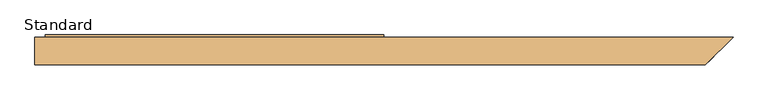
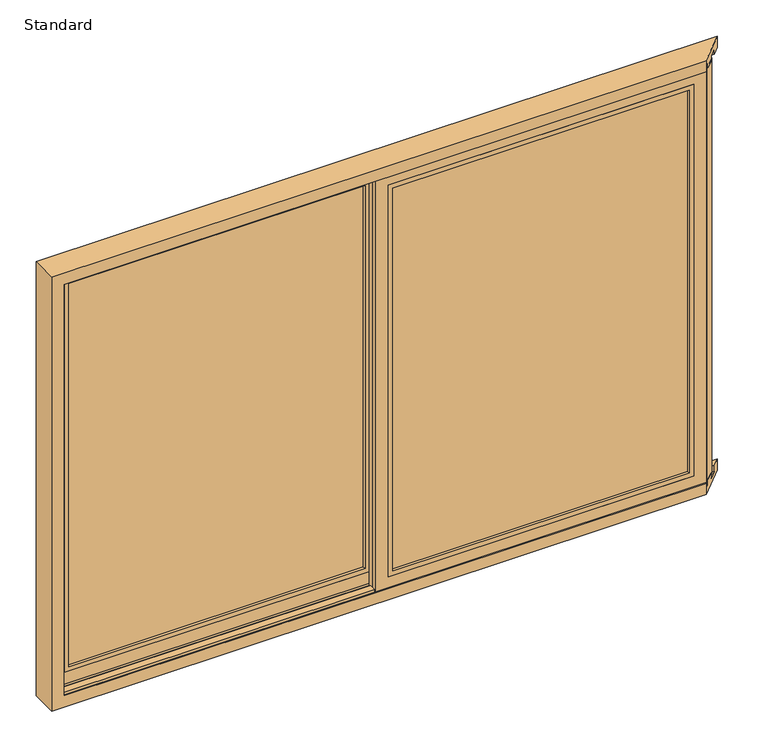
"""IFC4 building model written with IfcOpenShell, lengths in millimetres: door geometry, SMARTS_Visoglide Plus Corner Opening : Standard."""

from ifc_helpers import new_model, si_unit, frame, origin, place, context, project, spatial, polyline, outline, extrude, faceted_brep, source, transform, mapped, element, save


def standard_b7fdf201(model_context):
    return source(origin(), model_context, "Body", "SolidModel", [
        extrude(outline(polyline([(1347.5, -67.0), (26.5, -67.0), (26.5, -63.0), (1347.5, -63.0), (1347.5, -67.0)])), frame((0.0, 0.0, 952.5), z_axis=(0.0, 0.0, 1.0), x_axis=(1.0, 0.0, 0.0)), (0.0, 0.0, 1.0), 1795.0),
        extrude(outline(polyline([(1347.5, -47.0), (26.5, -47.0), (26.5, -43.0), (1347.5, -43.0), (1347.5, -47.0)])), frame((0.0, 0.0, 952.5), z_axis=(0.0, 0.0, 1.0), x_axis=(1.0, 0.0, 0.0)), (0.0, 0.0, 1.0), 1795.0),
        extrude(outline(polyline([(2747.5, 26.5), (952.5, 26.5), (952.5, 1347.5), (2747.5, 1347.5), (2747.5, 26.5)]), holes=[polyline([(2737.5, 1337.5), (962.5, 1337.5), (962.5, 36.5), (2737.5, 36.5), (2737.5, 1337.5)])]), frame((0.0, -63.0, 0.0), z_axis=(0.0, 1.0, 0.0), x_axis=(0.0, 0.0, 1.0)), (0.0, 0.0, 1.0), 16.0),
        extrude(outline(polyline([(2752.5, 1352.5), (2752.5, 21.5), (947.5, 21.5), (947.5, 1352.5), (2752.5, 1352.5)]), holes=[polyline([(967.5, 1332.5), (967.5, 41.5), (2732.5, 41.5), (2732.5, 1332.5), (967.5, 1332.5)])]), frame((0.0, -86.0, 0.0), z_axis=(0.0, 1.0, 0.0), x_axis=(0.0, 0.0, 1.0)), (0.0, 0.0, 1.0), 11.9897777),
        extrude(outline(polyline([(2806.5, 1406.5), (2806.5, -32.5), (893.5, -32.5), (893.5, 1406.5), (2806.5, 1406.5)]), holes=[polyline([(947.5, 1352.5), (947.5, 21.5), (2752.5, 21.5), (2752.5, 1352.5), (947.5, 1352.5)])]), frame((0.0, -86.0, 0.0), z_axis=(0.0, 1.0, 0.0), x_axis=(0.0, 0.0, 1.0)), (0.0, 0.0, 1.0), 24.0),
        faceted_brep([(1332.5, -39.0, 2732.5), (1332.5, -35.0, 2732.5), (1332.5, -35.0, 967.5), (1332.5, -39.0, 967.5), (1355.5, -62.0, 2755.5), (1355.5, -39.0, 2755.5), (1355.5, -39.0, 944.5), (1355.5, -62.0, 944.5), (1406.5, -35.0, 2806.5), (1406.5, -62.0, 2806.5), (1406.5, -62.0, 893.5), (1406.5, -35.0, 893.5), (41.5, -35.0, 967.5), (41.5, -39.0, 967.5), (18.5, -39.0, 944.5), (18.5, -62.0, 944.5), (-32.5, -62.0, 893.5), (-32.5, -35.0, 893.5), (41.5, -35.0, 2732.5), (41.5, -39.0, 2732.5), (18.5, -39.0, 2755.5), (18.5, -62.0, 2755.5), (-32.5, -62.0, 2806.5), (-32.5, -35.0, 2806.5)], [[[0, 1, 2, 3]], [[4, 5, 6, 7]], [[8, 9, 10, 11]], [[3, 2, 12, 13]], [[7, 6, 14, 15]], [[11, 10, 16, 17]], [[13, 12, 18, 19]], [[15, 14, 20, 21]], [[17, 16, 22, 23]], [[11, 17, 23, 8], [1, 18, 12, 2]], [[19, 18, 1, 0]], [[5, 20, 14, 6], [3, 13, 19, 0]], [[21, 20, 5, 4]], [[9, 22, 16, 10], [7, 15, 21, 4]], [[23, 22, 9, 8]]]),
        extrude(outline(polyline([(-26.5, 0.0), (-1347.5, 0.0), (-1347.5, 4.0), (-26.5, 4.0), (-26.5, 0.0)])), frame((0.0, 0.0, 952.5), z_axis=(0.0, 0.0, 1.0), x_axis=(1.0, 0.0, 0.0)), (0.0, 0.0, 1.0), 1795.0),
        extrude(outline(polyline([(-26.5, 20.0), (-1347.5, 20.0), (-1347.5, 24.0), (-26.5, 24.0), (-26.5, 20.0)])), frame((0.0, 0.0, 952.5), z_axis=(0.0, 0.0, 1.0), x_axis=(1.0, 0.0, 0.0)), (0.0, 0.0, 1.0), 1795.0),
        extrude(outline(polyline([(2747.5, -1347.5), (952.5, -1347.5), (952.5, -26.5), (2747.5, -26.5), (2747.5, -1347.5)]), holes=[polyline([(2737.5, -36.5), (962.5, -36.5), (962.5, -1337.5), (2737.5, -1337.5), (2737.5, -36.5)])]), frame((0.0, 4.0, 0.0), z_axis=(0.0, 1.0, 0.0), x_axis=(0.0, 0.0, 1.0)), (0.0, 0.0, 1.0), 16.0),
        extrude(outline(polyline([(2752.5, -21.5), (2752.5, -1352.5), (947.5, -1352.5), (947.5, -21.5), (2752.5, -21.5)]), holes=[polyline([(967.5, -41.5), (967.5, -1332.5), (2732.5, -1332.5), (2732.5, -41.5), (967.5, -41.5)])]), frame((0.0, -19.0, 0.0), z_axis=(0.0, 1.0, 0.0), x_axis=(0.0, 0.0, 1.0)), (0.0, 0.0, 1.0), 11.9897777),
        extrude(outline(polyline([(2806.5, 32.5), (2806.5, -1406.5), (893.5, -1406.5), (893.5, 32.5), (2806.5, 32.5)]), holes=[polyline([(947.5, -21.5), (947.5, -1352.5), (2752.5, -1352.5), (2752.5, -21.5), (947.5, -21.5)])]), frame((0.0, -19.0, 0.0), z_axis=(0.0, 1.0, 0.0), x_axis=(0.0, 0.0, 1.0)), (0.0, 0.0, 1.0), 24.0),
        faceted_brep([(-41.5, 28.0, 2732.5), (-41.5, 32.0, 2732.5), (-41.5, 32.0, 967.5), (-41.5, 28.0, 967.5), (-18.5, 5.0, 2755.5), (-18.5, 28.0, 2755.5), (-18.5, 28.0, 944.5), (-18.5, 5.0, 944.5), (32.5, 32.0, 2806.5), (32.5, 5.0, 2806.5), (32.5, 5.0, 893.5), (32.5, 32.0, 893.5), (-1332.5, 32.0, 967.5), (-1332.5, 28.0, 967.5), (-1355.5, 28.0, 944.5), (-1355.5, 5.0, 944.5), (-1406.5, 5.0, 893.5), (-1406.5, 32.0, 893.5), (-1332.5, 32.0, 2732.5), (-1332.5, 28.0, 2732.5), (-1355.5, 28.0, 2755.5), (-1355.5, 5.0, 2755.5), (-1406.5, 5.0, 2806.5), (-1406.5, 32.0, 2806.5)], [[[0, 1, 2, 3]], [[4, 5, 6, 7]], [[8, 9, 10, 11]], [[3, 2, 12, 13]], [[7, 6, 14, 15]], [[11, 10, 16, 17]], [[13, 12, 18, 19]], [[15, 14, 20, 21]], [[17, 16, 22, 23]], [[11, 17, 23, 8], [1, 18, 12, 2]], [[19, 18, 1, 0]], [[5, 20, 14, 6], [3, 13, 19, 0]], [[21, 20, 5, 4]], [[9, 22, 16, 10], [7, 15, 21, 4]], [[23, 22, 9, 8]]]),
        faceted_brep([(-1450.0, 22.7989407, 2850.0), (-1450.0, -95.0, 2850.0), (1400.0728753, -95.0, 2850.0), (1517.8718161, 22.7989407, 2850.0), (-1398.1999999, -95.0, 2798.1999999), (-1398.1999999, -91.0, 2798.1999999), (1404.0728753, -91.0, 2798.1999999), (1400.0728753, -95.0, 2798.1999999), (-1424.1999999, -91.0, 2824.1999999), (-1424.1999999, -76.3, 2824.1999999), (1418.7728753, -76.3, 2824.1999999), (1404.0728753, -91.0, 2824.1999999), (-1398.1999999, -76.3, 2798.1999999), (-1398.1999999, -43.7842251, 2798.1999999), (1451.2886502, -43.7842251, 2798.1999999), (1418.7728753, -76.3, 2798.1999999), (-1424.1999999, -43.7842251, 2824.1999999), (-1424.1999999, -9.7842251, 2824.1999999), (1485.2886502, -9.7842251, 2824.1999999), (1451.2886502, -43.7842251, 2824.1999999), (-1398.1999999, -9.7842251, 2798.1999999), (-1398.1999999, 22.7989407, 2798.1999999), (1517.8718161, 22.7989407, 2798.1999999), (1485.2886502, -9.7842251, 2798.1999999), (-1450.0, 22.7989407, 850.0), (-1450.0, -95.0, 850.0), (-1398.1999999, -95.0, 901.8000001), (-1398.1999999, -91.0, 901.8000001), (-1424.1999999, -91.0, 875.8000001), (-1424.1999999, -76.3, 875.8000001), (-1398.1999999, -76.3, 901.8000001), (-1398.1999999, -43.7842251, 901.8000001), (-1424.1999999, -43.7842251, 875.8000001), (-1424.1999999, -9.7842251, 875.8000001), (-1398.1999999, -9.7842251, 901.8000001), (-1398.1999999, 22.7989407, 901.8000001), (1517.8718161, 22.7989407, 850.0), (1400.0728753, -95.0, 850.0), (1400.0728753, -95.0, 901.8000001), (1404.0728753, -91.0, 901.8000001), (1404.0728753, -91.0, 875.8000001), (1418.7728753, -76.3, 875.8000001), (1418.7728753, -76.3, 901.8000001), (1451.2886502, -43.7842251, 901.8000001), (1451.2886502, -43.7842251, 875.8000001), (1485.2886502, -9.7842251, 875.8000001), (1485.2886502, -9.7842251, 901.8000001), (1517.8718161, 22.7989407, 901.8000001)], [[[0, 1, 2, 3]], [[4, 5, 6, 7]], [[8, 9, 10, 11]], [[12, 13, 14, 15]], [[16, 17, 18, 19]], [[20, 21, 22, 23]], [[1, 0, 24, 25]], [[5, 4, 26, 27]], [[9, 8, 28, 29]], [[13, 12, 30, 31]], [[17, 16, 32, 33]], [[21, 20, 34, 35]], [[25, 24, 36, 37]], [[27, 26, 38, 39]], [[29, 28, 40, 41]], [[31, 30, 42, 43]], [[33, 32, 44, 45]], [[35, 34, 46, 47]], [[1, 25, 37, 38, 26, 4, 7, 2]], [[5, 27, 39, 40, 28, 8, 11, 6]], [[9, 29, 41, 42, 30, 12, 15, 10]], [[13, 31, 43, 44, 32, 16, 19, 14]], [[17, 33, 45, 46, 34, 20, 23, 18]], [[24, 0, 3, 22, 21, 35, 47, 36]], [[3, 2, 7, 6, 11, 10, 15, 14, 19, 18, 23, 22]], [[37, 36, 47, 46, 45, 44, 43, 42, 41, 40, 39, 38]]]),
        extrude(outline(polyline([(1460.0728753, -35.0), (1413.3728753, -81.7), (1406.5, -81.7), (1406.5, -35.0), (1460.0728753, -35.0)])), frame((0.0, 0.0, 893.5), z_axis=(0.0, 0.0, 1.0), x_axis=(1.0, 0.0, 0.0)), (0.0, 0.0, 1.0), 1913.0),
    ])


if __name__ == "__main__":
    model = new_model("IFC4")
    model_context = context("Model", 3, world=origin())
    ifc_project = project(units=[si_unit("LENGTHUNIT", "METRE", prefix="MILLI")], contexts=[model_context])
    site = spatial("IfcSite", under=ifc_project)
    building = spatial("IfcBuilding", under=site)
    placement = place(None, origin())
    standard_shape = standard_b7fdf201(model_context)
    element("IfcDoor", 1, ObjectType="SMARTS_Visoglide Plus Corner Opening : Standard", at=placement, inside=building, context=model_context, shape_type="MappedRepresentation", body=[
        mapped(standard_shape, transform((0.0, 0.0, 0.0), x_axis=(1.0, 0.0, 0.0), y_axis=(0.0, 1.0, 0.0), z_axis=(0.0, 0.0, 1.0))),
    ])
    save(model, "model.ifc")
